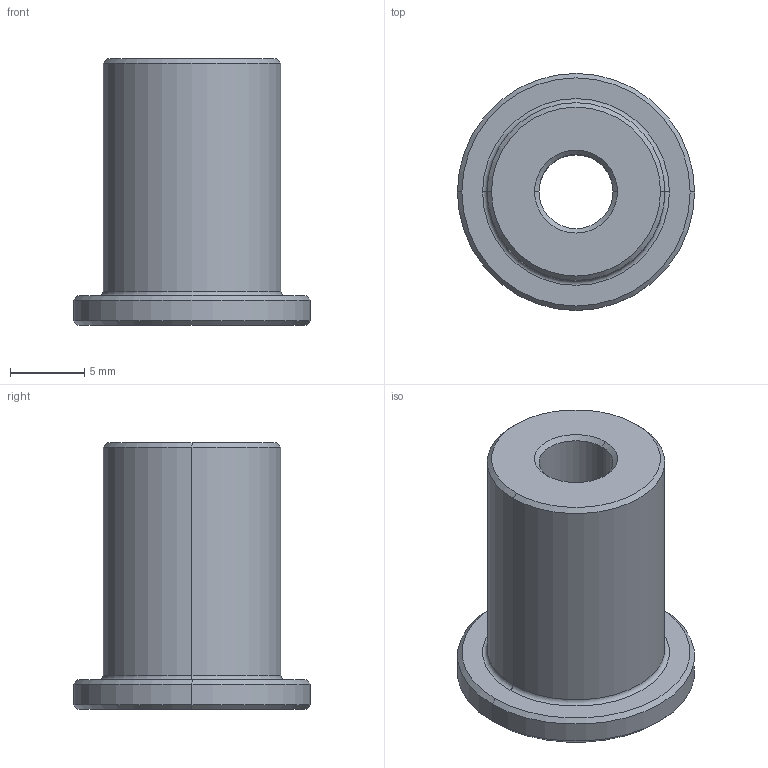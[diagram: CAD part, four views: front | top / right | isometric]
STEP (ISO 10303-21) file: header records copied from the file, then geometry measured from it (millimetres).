
FILE_DESCRIPTION (( 'STEP AP214' ), '1' );
FILE_NAME ('SBNA-12M5.STEP', '2019-11-11T06:43:04', ( '微软用户' ), ( '微软中国' ), 'SwSTEP 2.0', 'SolidWorks 2016', '' );
FILE_SCHEMA (( 'AUTOMOTIVE_DESIGN' ));
Length unit declared in the file: millimetre
Products named in the file (1): SBNA-12M5
Bounding box: 16 x 16 x 18 mm (x, y, z)
Volume: 1851.4 mm3; surface area: 1314.6 mm2
Topology: 1 solids, 1 shells, 21 faces, 42 edges, 24 vertices
Faces by surface type: cone 10, cylinder 6, plane 3, torus 2
Entity records: 584 total; most frequent: DIRECTION 112, CARTESIAN_POINT 88, ORIENTED_EDGE 84, AXIS2_PLACEMENT_3D 48, EDGE_CURVE 42, CIRCLE 26, VERTEX_POINT 24, EDGE_LOOP 24
